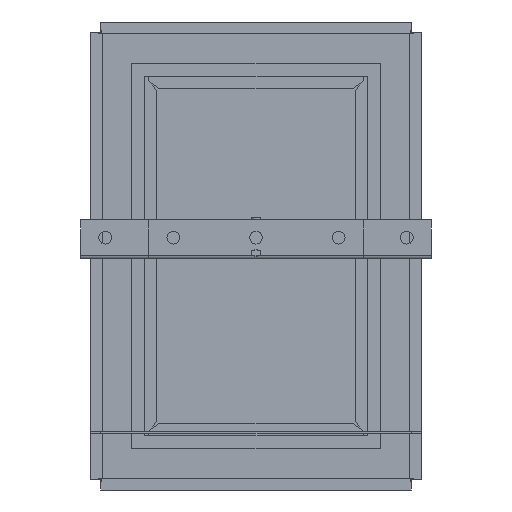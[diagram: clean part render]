
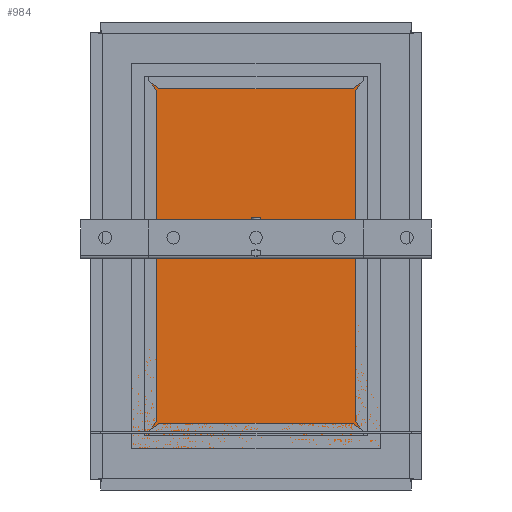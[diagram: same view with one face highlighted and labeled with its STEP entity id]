
A CAD part, front view. The second image highlights one B-rep face of the part: STEP entity #984.
In plain terms, the highlighted planar face has unit normal (0, -1, 0).
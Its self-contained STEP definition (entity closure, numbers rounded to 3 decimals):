
#984 = ADVANCED_FACE( '', ( #1767 ), #1768, .T. );
#1767 = FACE_OUTER_BOUND( '', #2684, .T. );
#1768 = PLANE( '', #2685 );
#2684 = EDGE_LOOP( '', ( #4605, #4606, #4607, #4608 ) );
#2685 = AXIS2_PLACEMENT_3D( '', #4609, #4610, #4611 );
#4605 = ORIENTED_EDGE( '', *, *, #5740, .T. );
#4606 = ORIENTED_EDGE( '', *, *, #5744, .T. );
#4607 = ORIENTED_EDGE( '', *, *, #5747, .T. );
#4608 = ORIENTED_EDGE( '', *, *, #5748, .T. );
#4609 = CARTESIAN_POINT( '', ( -80.963, 0., -125.413 ) );
#4610 = DIRECTION( '', ( 0., -1., 0. ) );
#4611 = DIRECTION( '', ( 0., 0., -1. ) );
#5740 = EDGE_CURVE( '', #6715, #6716, #6717, .T. );
#5744 = EDGE_CURVE( '', #6716, #6723, #6724, .T. );
#5747 = EDGE_CURVE( '', #6723, #6728, #6729, .T. );
#5748 = EDGE_CURVE( '', #6728, #6715, #6730, .T. );
#6715 = VERTEX_POINT( '', #8573 );
#6716 = VERTEX_POINT( '', #8574 );
#6717 = LINE( '', #8575, #8576 );
#6723 = VERTEX_POINT( '', #8585 );
#6724 = LINE( '', #8586, #8587 );
#6728 = VERTEX_POINT( '', #8593 );
#6729 = LINE( '', #8594, #8595 );
#6730 = LINE( '', #8596, #8597 );
#8573 = CARTESIAN_POINT( '', ( -80.963, 0., 125.413 ) );
#8574 = CARTESIAN_POINT( '', ( -80.963, 0., -125.413 ) );
#8575 = CARTESIAN_POINT( '', ( -80.963, 0., 125.413 ) );
#8576 = VECTOR( '', #9608, 1000. );
#8585 = CARTESIAN_POINT( '', ( 80.963, 0., -125.413 ) );
#8586 = CARTESIAN_POINT( '', ( -80.963, 0., -125.413 ) );
#8587 = VECTOR( '', #9612, 1000. );
#8593 = CARTESIAN_POINT( '', ( 80.963, 0., 125.413 ) );
#8594 = CARTESIAN_POINT( '', ( 80.963, 0., -125.413 ) );
#8595 = VECTOR( '', #9615, 1000. );
#8596 = CARTESIAN_POINT( '', ( 80.963, 0., 125.413 ) );
#8597 = VECTOR( '', #9616, 1000. );
#9608 = DIRECTION( '', ( 0., 0., -1. ) );
#9612 = DIRECTION( '', ( 1., 0., 0. ) );
#9615 = DIRECTION( '', ( 0., 0., 1. ) );
#9616 = DIRECTION( '', ( -1., 0., 0. ) );
